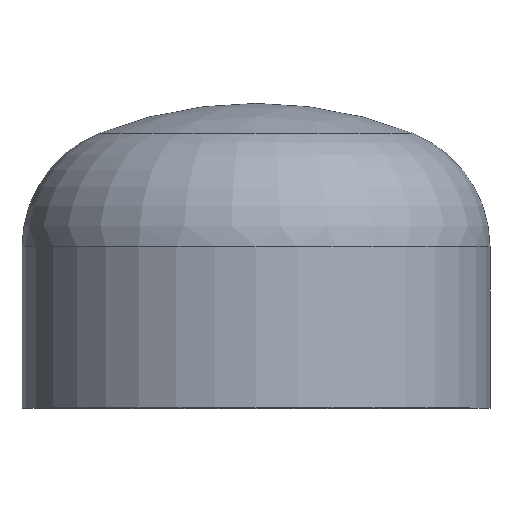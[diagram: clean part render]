
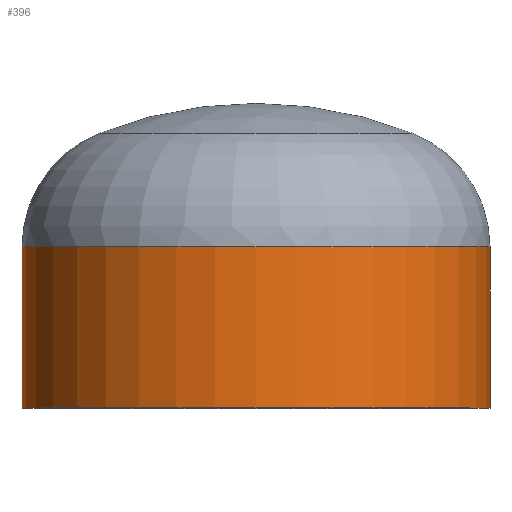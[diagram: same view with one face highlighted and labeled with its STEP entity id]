
A CAD part, top view. The second image highlights one B-rep face of the part: STEP entity #396.
In plain terms, the highlighted cylindrical face has radius 203.2 mm (diameter 406.4 mm), a partial arc.
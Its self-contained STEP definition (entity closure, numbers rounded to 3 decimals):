
#1 = EDGE_LOOP ( 'NONE', ( #69, #55, #81, #34 ) ) ;
#34 = ORIENTED_EDGE ( 'NONE', *, *, #161, .F. ) ;
#43 = VERTEX_POINT ( 'NONE', #240 ) ;
#55 = ORIENTED_EDGE ( 'NONE', *, *, #163, .T. ) ;
#60 = VERTEX_POINT ( 'NONE', #237 ) ;
#65 = VECTOR ( 'NONE', #334, 1000. ) ;
#69 = ORIENTED_EDGE ( 'NONE', *, *, #351, .T. ) ;
#79 = AXIS2_PLACEMENT_3D ( 'NONE', #157, #160, #289 ) ;
#81 = ORIENTED_EDGE ( 'NONE', *, *, #348, .F. ) ;
#92 = VERTEX_POINT ( 'NONE', #233 ) ;
#94 = LINE ( 'NONE', #344, #374 ) ;
#95 = AXIS2_PLACEMENT_3D ( 'NONE', #131, #154, #150 ) ;
#113 = VERTEX_POINT ( 'NONE', #336 ) ;
#131 = CARTESIAN_POINT ( 'NONE',  ( 0., 0., 0. ) ) ;
#138 = CIRCLE ( 'NONE', #95, 203.2 ) ;
#150 = DIRECTION ( 'NONE',  ( 1., 0., 0. ) ) ;
#154 = DIRECTION ( 'NONE',  ( 0., -1., 0. ) ) ;
#157 = CARTESIAN_POINT ( 'NONE',  ( 0., 140., 0. ) ) ;
#160 = DIRECTION ( 'NONE',  ( 0., -1., 0. ) ) ;
#161 = EDGE_CURVE ( 'NONE', #43, #60, #94, .T. ) ;
#163 = EDGE_CURVE ( 'NONE', #92, #113, #196, .T. ) ;
#181 = CYLINDRICAL_SURFACE ( 'NONE', #207, 203.2 ) ;
#194 = CARTESIAN_POINT ( 'NONE',  ( -203.2, 0., 0. ) ) ;
#196 = LINE ( 'NONE', #194, #65 ) ;
#207 = AXIS2_PLACEMENT_3D ( 'NONE', #312, #398, #293 ) ;
#233 = CARTESIAN_POINT ( 'NONE',  ( -203.2, 140., 0. ) ) ;
#237 = CARTESIAN_POINT ( 'NONE',  ( 203.2, 0., 0. ) ) ;
#240 = CARTESIAN_POINT ( 'NONE',  ( 203.2, 140., 0. ) ) ;
#262 = FACE_OUTER_BOUND ( 'NONE', #1, .T. ) ;
#289 = DIRECTION ( 'NONE',  ( 1., 0., 0. ) ) ;
#293 = DIRECTION ( 'NONE',  ( 1., 0., 0. ) ) ;
#312 = CARTESIAN_POINT ( 'NONE',  ( 0., 0., 0. ) ) ;
#334 = DIRECTION ( 'NONE',  ( 0., -1., 0. ) ) ;
#336 = CARTESIAN_POINT ( 'NONE',  ( -203.2, 0., 0. ) ) ;
#343 = DIRECTION ( 'NONE',  ( 0., -1., 0. ) ) ;
#344 = CARTESIAN_POINT ( 'NONE',  ( 203.2, 0., 0. ) ) ;
#348 = EDGE_CURVE ( 'NONE', #60, #113, #138, .T. ) ;
#351 = EDGE_CURVE ( 'NONE', #43, #92, #392, .T. ) ;
#374 = VECTOR ( 'NONE', #343, 1000. ) ;
#392 = CIRCLE ( 'NONE', #79, 203.2 ) ;
#396 = ADVANCED_FACE ( 'NONE', ( #262 ), #181, .T. ) ;
#398 = DIRECTION ( 'NONE',  ( 0., -1., 0. ) ) ;
